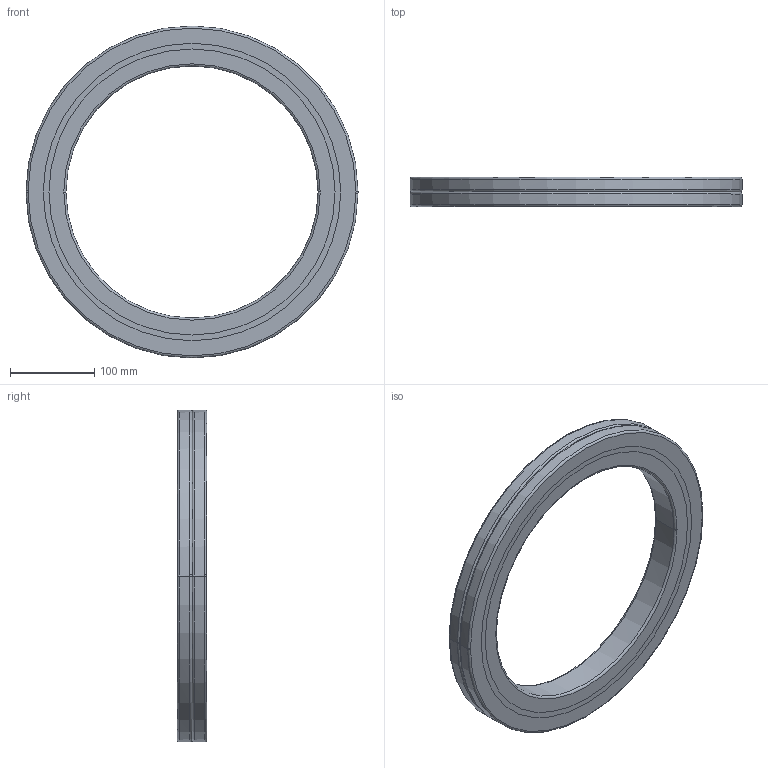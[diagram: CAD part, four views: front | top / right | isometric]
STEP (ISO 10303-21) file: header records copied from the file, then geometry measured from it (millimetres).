
FILE_DESCRIPTION(('no description'),'unknown implementation level');
FILE_NAME('CRBA30035_48.stp',' ',('HIWIN GmbH'),('CADClick - KiM GmbH - www.kimweb.de'),'unknown preprocess','ACIS','unknown authorization');
FILE_SCHEMA(('automotive_design'));
Length unit declared in the file: millimetre
Products named in the file (5): CRBA30035_1; CRBA30035_2; CRBA30035_3; CRBA30035_4; CRBA30035
Bounding box: 395 x 35 x 395 mm (x, y, z)
Volume: 1583265.3 mm3; surface area: 323109.6 mm2
Topology: 5 solids, 5 shells, 54 faces, 120 edges, 76 vertices
Faces by surface type: torus 24, cylinder 20, plane 10
Entity records: 3096 total; most frequent: DIRECTION 338, STYLED_ITEM 255, PRESENTATION_STYLE_ASSIGNMENT 255, CARTESIAN_POINT 255, COLOUR_RGB 255, ORIENTED_EDGE 240, AXIS2_PLACEMENT_3D 159, EDGE_CURVE 120
